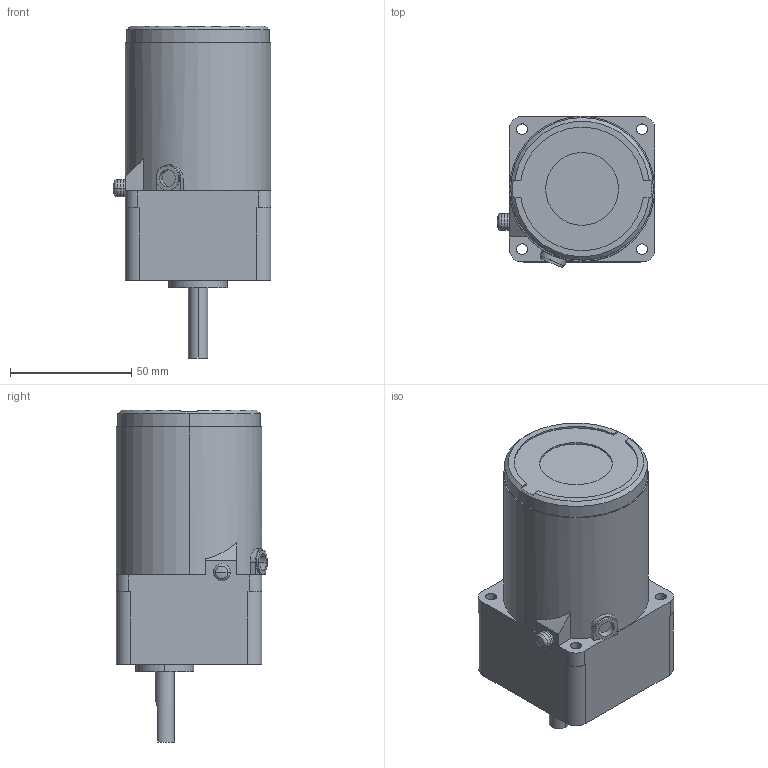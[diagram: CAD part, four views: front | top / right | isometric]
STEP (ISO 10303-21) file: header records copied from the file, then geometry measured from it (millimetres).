
FILE_DESCRIPTION (( 'STEP AP203' ), '1' );
FILE_NAME ('2_K6GN-_W2__2GN_K.STEP', '2022-06-15T20:20:47', ( '' ), ( '' ), 'SwSTEP 2.0', 'SolidWorks 2022', '' );
FILE_SCHEMA (( 'CONFIG_CONTROL_DESIGN' ));
Length unit declared in the file: millimetre
Products named in the file (1): 2_K6GN-_W2__2GN_K
Bounding box: 65 x 62.4 x 137 mm (x, y, z)
Volume: 318984.4 mm3; surface area: 34630.2 mm2
Topology: 1 solids, 3 shells, 121 faces, 305 edges, 198 vertices
Faces by surface type: cylinder 75, plane 40, cone 2, sphere 2, torus 2
Entity records: 3857 total; most frequent: CARTESIAN_POINT 715, DIRECTION 701, ORIENTED_EDGE 610, EDGE_CURVE 305, AXIS2_PLACEMENT_3D 282, VERTEX_POINT 198, CIRCLE 160, EDGE_LOOP 139
